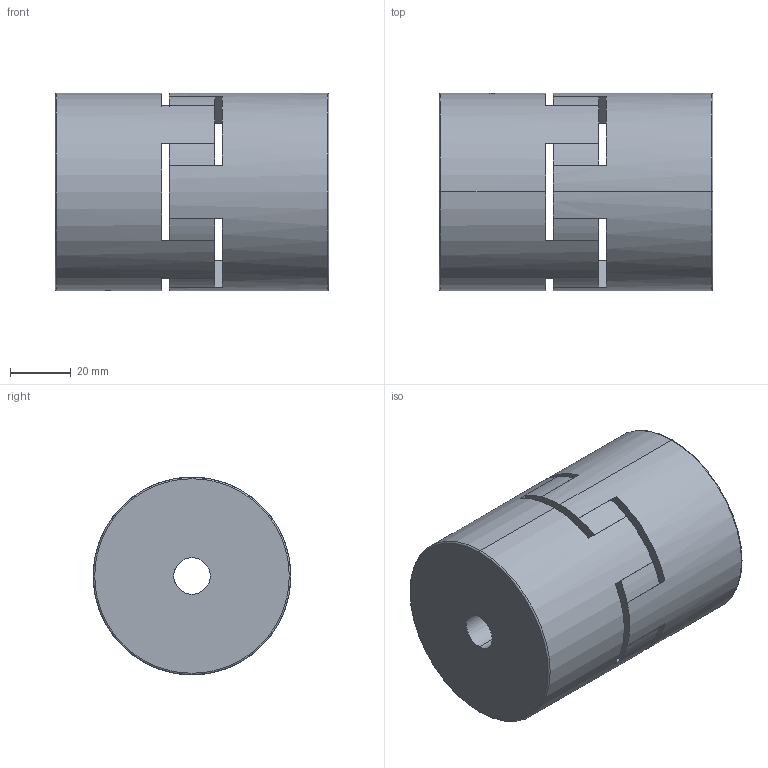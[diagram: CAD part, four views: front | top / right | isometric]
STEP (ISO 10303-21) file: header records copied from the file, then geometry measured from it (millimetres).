
FILE_DESCRIPTION (( 'STEP AP203' ), '1' );
FILE_NAME ('SQR-65.STEP', '2009-10-01T15:12:17', ( 'USER' ), ( 'HOME' ), 'SwSTEP 2.0', 'SolidWorks 2007', '' );
FILE_SCHEMA (( 'CONFIG_CONTROL_DESIGN' ));
Length unit declared in the file: millimetre
Products named in the file (1): SQR-65
Bounding box: 90 x 65 x 65 mm (x, y, z)
Volume: 273161.3 mm3; surface area: 45778.9 mm2
Topology: 3 solids, 3 shells, 72 faces, 200 edges, 132 vertices
Faces by surface type: plane 46, cylinder 22, torus 4
Entity records: 2633 total; most frequent: CARTESIAN_POINT 657, ORIENTED_EDGE 400, DIRECTION 394, EDGE_CURVE 200, AXIS2_PLACEMENT_3D 133, VERTEX_POINT 132, LINE 128, VECTOR 128
